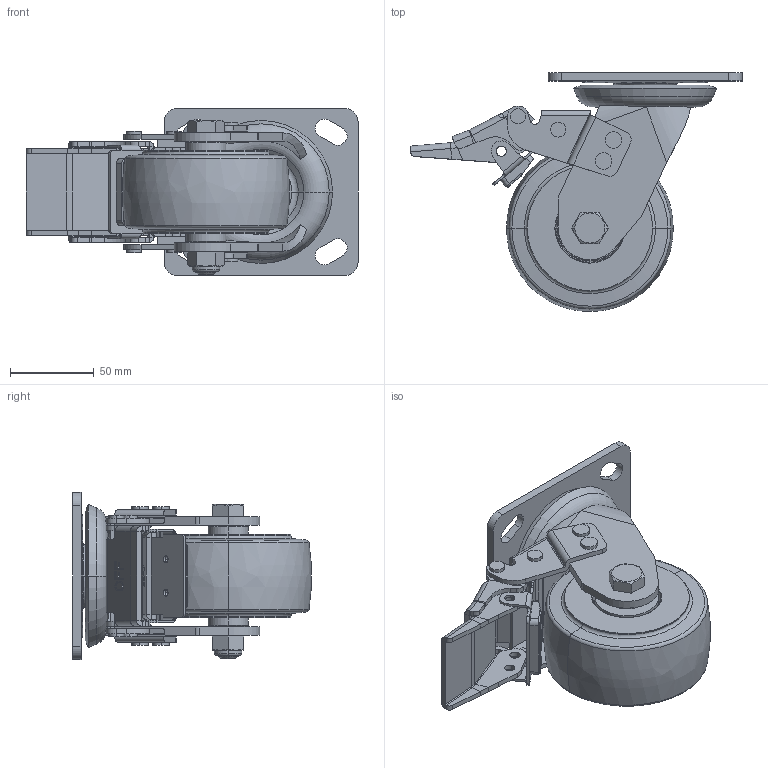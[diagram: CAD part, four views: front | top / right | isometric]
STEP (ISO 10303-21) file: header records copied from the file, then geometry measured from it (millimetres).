
FILE_DESCRIPTION((''),'2;1');
FILE_NAME('S75724L_ASM','2026-07-29T',('Lenovo'),(''),'PRO/ENGINEER BY PARAMETRIC TECHNOLOGY CORPORATION, 2010280','PRO/ENGINEER BY PARAMETRIC TECHNOLOGY CORPORATION, 2010280','');
FILE_SCHEMA(('CONFIG_CONTROL_DESIGN'));
Length unit declared in the file: millimetre
Products named in the file (16): S7504-355; S7570-201; S7500-211; 734-986; 6203; 700-67; 700-54; 734-86_ASM; 700-33; 700-34; C7414-525; 700-142; 700-141; C7434-401; 700-614; S75724L_ASM
Assembly tree (17 placements, depth 3):
  S75724L_ASM
    S7504-355
    S7570-201
    S7500-211
    734-86_ASM
      734-986
      6203  x2
      700-67  x2
      700-54
    700-33
    700-34
    C7414-525
    700-142
    700-141
    C7434-401
    700-614
Bounding box: 198.66 x 142.83 x 100 mm (x, y, z)
Volume: 534351.7 mm3; surface area: 172174.3 mm2
Topology: 43 solids, 43 shells, 871 faces, 2141 edges, 1296 vertices
Faces by surface type: plane 397, cylinder 266, torus 74, cone 48, sphere 48, bspline 38
Entity records: 25644 total; most frequent: CARTESIAN_POINT 6278, DIRECTION 4051, ORIENTED_EDGE 3874, EDGE_CURVE 1937, AXIS2_PLACEMENT_3D 1450, VERTEX_POINT 1222, VECTOR 1151, LINE 1151
